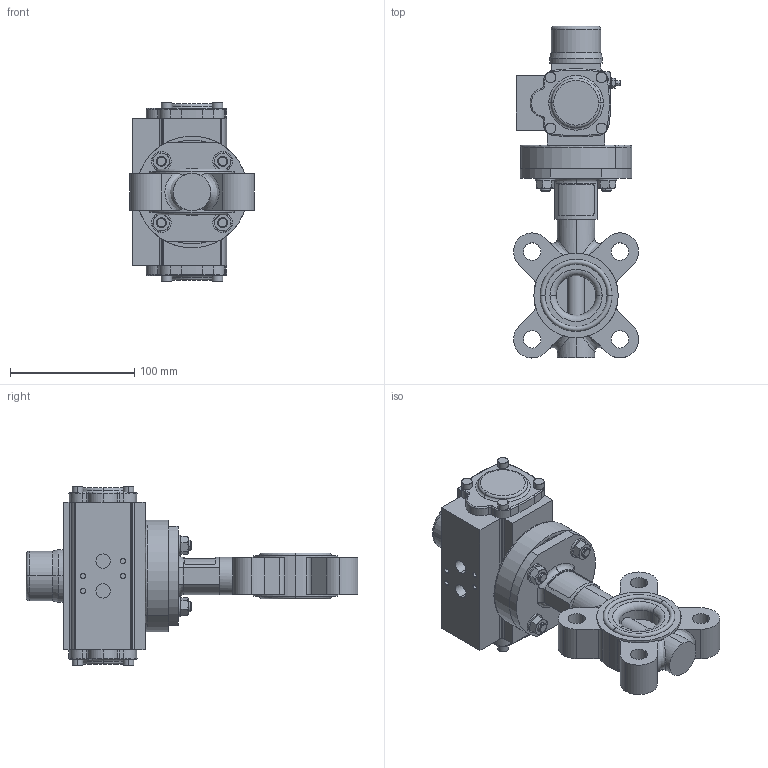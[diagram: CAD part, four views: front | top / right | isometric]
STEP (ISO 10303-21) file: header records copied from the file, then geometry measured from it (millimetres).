
FILE_DESCRIPTION (( 'STEP AP214' ), '1' );
FILE_NAME ('67709.step', '2020-10-26T07:27:45', ( '' ), ( '' ), 'SwSTEP 2.0', 'SolidWorks 2019', '' );
FILE_SCHEMA (( 'AUTOMOTIVE_DESIGN' ));
Length unit declared in the file: millimetre
Products named in the file (10): TL20-0032_M01; U-Scheibe DIN 125 A_M8; Achtkantreduktion 14-11 mm; Zyl-Schr In-6kt DIN 912_M6x16; 67335_15x15x2 - L=18; Flanschadapter F07-F05; 6kt-Schr DIN 933_M8x30; 6kt-Mu DIN 934_M8; 67709; DA0020-V14_01
Assembly tree (21 placements, depth 2):
  67709
    TL20-0032_M01
    Flanschadapter F07-F05
    Achtkantreduktion 14-11 mm
    DA0020-V14_01
    6kt-Schr DIN 933_M8x30  x4
    U-Scheibe DIN 125 A_M8  x4
    67335_15x15x2 - L=18
    6kt-Mu DIN 934_M8  x4
    Zyl-Schr In-6kt DIN 912_M6x16  x4
Bounding box: 100.65 x 267.33 x 144.8 mm (x, y, z)
Volume: 968361.5 mm3; surface area: 158277.3 mm2
Topology: 22 solids, 22 shells, 954 faces, 2345 edges, 1467 vertices
Faces by surface type: plane 439, cylinder 327, cone 105, torus 59, bspline 24
Entity records: 25837 total; most frequent: CARTESIAN_POINT 5572, DIRECTION 3929, ORIENTED_EDGE 3622, EDGE_CURVE 1811, AXIS2_PLACEMENT_3D 1523, VERTEX_POINT 1164, VECTOR 883, LINE 883
